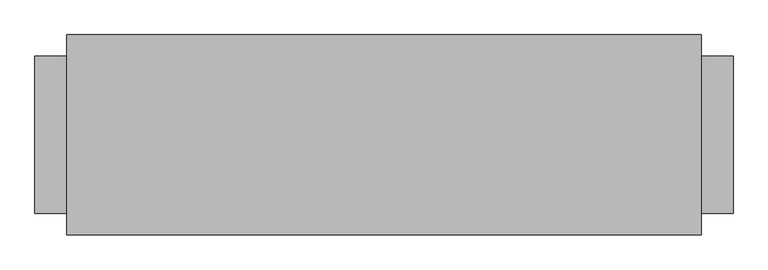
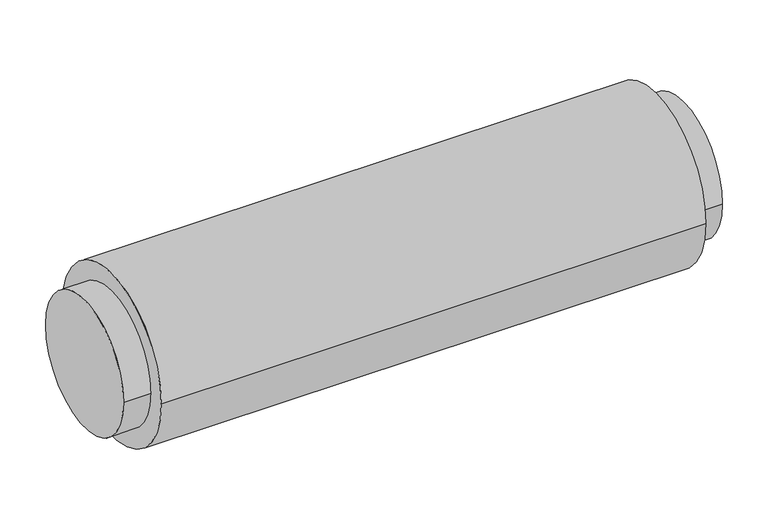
"""IFC4 building model written with IfcOpenShell, lengths in millimetres: damper geometry, VE-Tłumik_Akustyczny-ParaForma-Harmann-FLEXITEC : 250-1000."""

from ifc_helpers import new_model, si_unit, point, frame, origin, origin_2d, place, context, project, spatial, circle_curve, trimmed, segment, composite_curve, outline, extrude, source, transform, mapped, element, save


def damper_28a0ceff(model_context):
    return source(origin(), model_context, "Body", "SweptSolid", [
        extrude(outline(composite_curve([segment(trimmed(circle_curve(origin_2d(), 124.0), [point((-124.0, 0.0))], [point((124.0, 0.0))], False, "CARTESIAN"), True, "CONTINUOUS"), segment(trimmed(circle_curve(origin_2d(), 124.0), [point((124.0, 0.0))], [point((-124.0, 0.0))], False, "CARTESIAN"), True, "CONTINUOUS")], self_intersect=False)), frame((500.0, 0.0, 0.0), z_axis=(1.0, 0.0, 0.0), x_axis=(0.0, 1.0, 0.0)), (0.0, 0.0, 1.0), 50.0),
        extrude(outline(composite_curve([segment(trimmed(circle_curve(origin_2d(), 124.0), [point((-124.0, 0.0))], [point((124.0, 0.0))], False, "CARTESIAN"), True, "CONTINUOUS"), segment(trimmed(circle_curve(origin_2d(), 124.0), [point((124.0, 0.0))], [point((-124.0, 0.0))], False, "CARTESIAN"), True, "CONTINUOUS")], self_intersect=False)), frame((-550.0, 0.0, 0.0), z_axis=(1.0, 0.0, 0.0), x_axis=(0.0, 1.0, 0.0)), (0.0, 0.0, 1.0), 50.0),
        extrude(outline(composite_curve([segment(trimmed(circle_curve(origin_2d(), 157.95), [point((-157.95, 0.0))], [point((157.95, 0.0))], False, "CARTESIAN"), True, "CONTINUOUS"), segment(trimmed(circle_curve(origin_2d(), 157.95), [point((157.95, 0.0))], [point((-157.95, 0.0))], False, "CARTESIAN"), True, "CONTINUOUS")], self_intersect=False)), frame((-500.0, 0.0, 0.0), z_axis=(1.0, 0.0, 0.0), x_axis=(0.0, 1.0, 0.0)), (0.0, 0.0, 1.0), 1000.0),
    ])


if __name__ == "__main__":
    model = new_model("IFC4")
    model_context = context("Model", 3, world=origin())
    ifc_project = project(units=[si_unit("LENGTHUNIT", "METRE", prefix="MILLI")], contexts=[model_context])
    site = spatial("IfcSite", under=ifc_project)
    building = spatial("IfcBuilding", under=site)
    placement = place(None, origin())
    damper_shape = damper_28a0ceff(model_context)
    element("IfcDamper", 1, ObjectType="VE-Tłumik_Akustyczny-ParaForma-Harmann-FLEXITEC : 250-1000", at=placement, inside=building, context=model_context, shape_type="MappedRepresentation", body=[
        mapped(damper_shape, transform((0.0, 0.0, 0.0), x_axis=(1.0, 0.0, 0.0), y_axis=(0.0, 1.0, 0.0), z_axis=(0.0, 0.0, 1.0))),
    ])
    save(model, "model.ifc")
